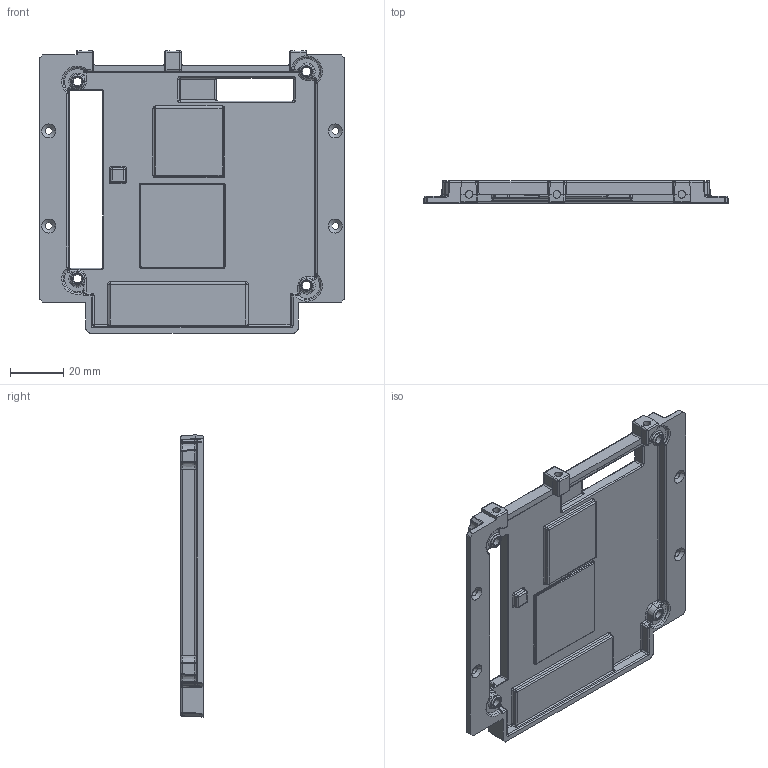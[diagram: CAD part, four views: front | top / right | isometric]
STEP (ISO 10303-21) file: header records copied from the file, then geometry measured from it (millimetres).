
FILE_DESCRIPTION((''),'2;1');
FILE_NAME('700-35077-01','2011-05-16T',('sureshkumar-v'),('Be-Atch INC. 1993'),'PRO/ENGINEER BY PARAMETRIC TECHNOLOGY CORPORATION, 2009141','PRO/ENGINEER BY PARAMETRIC TECHNOLOGY CORPORATION, 2009141','');
FILE_SCHEMA(('AUTOMOTIVE_DESIGN { 1 0 10303 214 1 1 1 1 }'));
Length unit declared in the file: inch
Products named in the file (1): 700-35077-01
Bounding box: 113.79 x 8.26 x 105.49 mm (x, y, z)
Volume: 49066.1 mm3; surface area: 26266.3 mm2
Topology: 1 solids, 1 shells, 686 faces, 1530 edges, 850 vertices
Faces by surface type: cylinder 240, bspline 134, plane 118, sphere 76, torus 68, cone 50
Entity records: 29200 total; most frequent: CARTESIAN_POINT 10037, ORIENTED_EDGE 3060, DIRECTION 2973, PRESENTATION_STYLE_ASSIGNMENT 1531, STYLED_ITEM 1531, CURVE_STYLE 1530, EDGE_CURVE 1530, AXIS2_PLACEMENT_3D 1196
